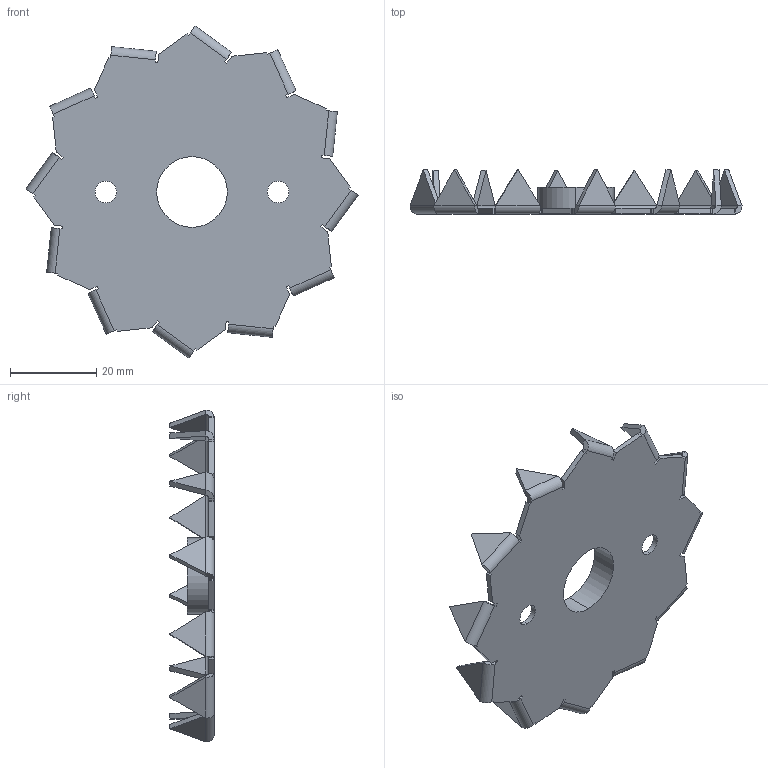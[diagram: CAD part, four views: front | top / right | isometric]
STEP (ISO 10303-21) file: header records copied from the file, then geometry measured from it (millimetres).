
FILE_DESCRIPTION (( 'STEP AP203' ), '1' );
FILE_NAME ('E75.STEP', '2020-05-22T10:36:28', ( '' ), ( '' ), 'SwSTEP 2.0', 'SolidWorks 2013', '' );
FILE_SCHEMA (( 'CONFIG_CONTROL_DESIGN' ));
Length unit declared in the file: millimetre
Products named in the file (1): E75
Bounding box: 77.02 x 10.25 x 77.02 mm (x, y, z)
Volume: 5428.5 mm3; surface area: 9599.2 mm2
Topology: 1 solids, 1 shells, 179 faces, 432 edges, 256 vertices
Faces by surface type: plane 147, cylinder 32
Entity records: 5131 total; most frequent: CARTESIAN_POINT 868, ORIENTED_EDGE 864, DIRECTION 856, EDGE_CURVE 432, LINE 368, VECTOR 368, VERTEX_POINT 256, AXIS2_PLACEMENT_3D 244
